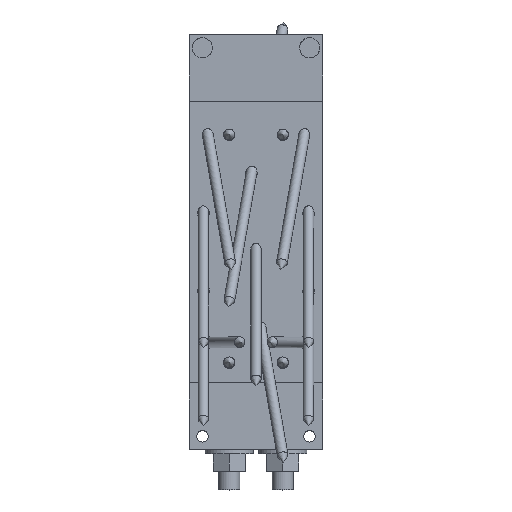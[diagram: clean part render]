
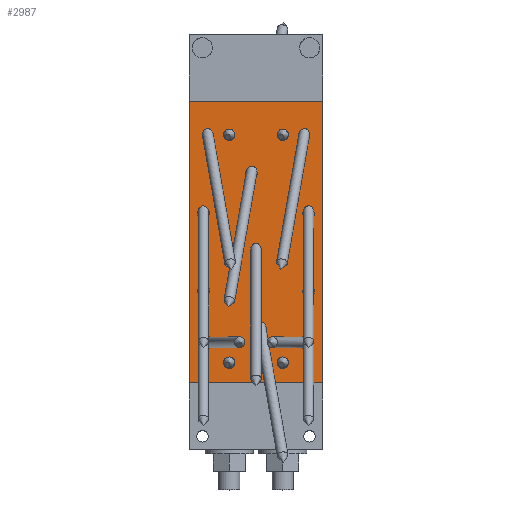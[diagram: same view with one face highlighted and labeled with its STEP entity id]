
A CAD part, top view. The second image highlights one B-rep face of the part: STEP entity #2987.
In plain terms, the highlighted planar face has unit normal (0, 0, 1) as drawn and (0, 0, -1) by its records, which use the part's own axes.
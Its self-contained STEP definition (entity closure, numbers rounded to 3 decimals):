
#295=CIRCLE('',#3474,4.25);
#296=CIRCLE('',#3475,4.25);
#297=CIRCLE('',#3476,4.25);
#298=CIRCLE('',#3477,4.25);
#388=ELLIPSE('',#3463,6.103,4.25);
#389=ELLIPSE('',#3464,6.103,4.25);
#390=ELLIPSE('',#3465,6.103,4.25);
#391=ELLIPSE('',#3466,6.103,4.25);
#392=ELLIPSE('',#3467,4.316,4.25);
#393=ELLIPSE('',#3468,4.316,4.25);
#394=ELLIPSE('',#3469,6.01,4.25);
#395=ELLIPSE('',#3470,6.01,4.25);
#396=ELLIPSE('',#3471,6.01,4.25);
#397=ELLIPSE('',#3472,6.01,4.25);
#398=ELLIPSE('',#3473,6.01,4.25);
#539=ORIENTED_EDGE('',*,*,#1238,.F.);
#540=ORIENTED_EDGE('',*,*,#1239,.F.);
#541=ORIENTED_EDGE('',*,*,#1240,.F.);
#542=ORIENTED_EDGE('',*,*,#1241,.F.);
#543=ORIENTED_EDGE('',*,*,#1242,.F.);
#544=ORIENTED_EDGE('',*,*,#1243,.F.);
#545=ORIENTED_EDGE('',*,*,#1244,.F.);
#546=ORIENTED_EDGE('',*,*,#1245,.T.);
#547=ORIENTED_EDGE('',*,*,#1246,.T.);
#548=ORIENTED_EDGE('',*,*,#1247,.F.);
#549=ORIENTED_EDGE('',*,*,#1248,.T.);
#550=ORIENTED_EDGE('',*,*,#1249,.F.);
#551=ORIENTED_EDGE('',*,*,#1250,.F.);
#552=ORIENTED_EDGE('',*,*,#1251,.F.);
#553=ORIENTED_EDGE('',*,*,#1252,.F.);
#554=ORIENTED_EDGE('',*,*,#1253,.F.);
#555=ORIENTED_EDGE('',*,*,#1254,.T.);
#556=ORIENTED_EDGE('',*,*,#1255,.T.);
#557=ORIENTED_EDGE('',*,*,#1236,.F.);
#1236=EDGE_CURVE('',#1577,#1578,#1857,.T.);
#1238=EDGE_CURVE('',#1579,#1579,#388,.T.);
#1239=EDGE_CURVE('',#1580,#1580,#389,.T.);
#1240=EDGE_CURVE('',#1581,#1581,#390,.T.);
#1241=EDGE_CURVE('',#1582,#1582,#391,.T.);
#1242=EDGE_CURVE('',#1583,#1583,#392,.T.);
#1243=EDGE_CURVE('',#1584,#1584,#393,.T.);
#1244=EDGE_CURVE('',#1585,#1585,#394,.T.);
#1245=EDGE_CURVE('',#1586,#1586,#395,.F.);
#1246=EDGE_CURVE('',#1587,#1587,#396,.F.);
#1247=EDGE_CURVE('',#1588,#1588,#397,.T.);
#1248=EDGE_CURVE('',#1589,#1589,#398,.F.);
#1249=EDGE_CURVE('',#1590,#1590,#295,.T.);
#1250=EDGE_CURVE('',#1591,#1591,#296,.T.);
#1251=EDGE_CURVE('',#1592,#1592,#297,.T.);
#1252=EDGE_CURVE('',#1593,#1593,#298,.T.);
#1253=EDGE_CURVE('',#1594,#1577,#1859,.T.);
#1254=EDGE_CURVE('',#1594,#1595,#1860,.T.);
#1255=EDGE_CURVE('',#1595,#1578,#1861,.T.);
#1577=VERTEX_POINT('',#4904);
#1578=VERTEX_POINT('',#4906);
#1579=VERTEX_POINT('',#4910);
#1580=VERTEX_POINT('',#4912);
#1581=VERTEX_POINT('',#4914);
#1582=VERTEX_POINT('',#4916);
#1583=VERTEX_POINT('',#4918);
#1584=VERTEX_POINT('',#4920);
#1585=VERTEX_POINT('',#4922);
#1586=VERTEX_POINT('',#4924);
#1587=VERTEX_POINT('',#4926);
#1588=VERTEX_POINT('',#4928);
#1589=VERTEX_POINT('',#4930);
#1590=VERTEX_POINT('',#4932);
#1591=VERTEX_POINT('',#4934);
#1592=VERTEX_POINT('',#4936);
#1593=VERTEX_POINT('',#4938);
#1594=VERTEX_POINT('',#4940);
#1595=VERTEX_POINT('',#4942);
#1857=LINE('',#4905,#2105);
#1859=LINE('',#4939,#2107);
#1860=LINE('',#4941,#2108);
#1861=LINE('',#4943,#2109);
#2105=VECTOR('',#3924,1000.);
#2107=VECTOR('',#3958,1000.);
#2108=VECTOR('',#3959,1000.);
#2109=VECTOR('',#3960,1000.);
#2292=EDGE_LOOP('',(#539));
#2293=EDGE_LOOP('',(#540));
#2294=EDGE_LOOP('',(#541));
#2295=EDGE_LOOP('',(#542));
#2296=EDGE_LOOP('',(#543));
#2297=EDGE_LOOP('',(#544));
#2298=EDGE_LOOP('',(#545));
#2299=EDGE_LOOP('',(#546));
#2300=EDGE_LOOP('',(#547));
#2301=EDGE_LOOP('',(#548));
#2302=EDGE_LOOP('',(#549));
#2303=EDGE_LOOP('',(#550));
#2304=EDGE_LOOP('',(#551));
#2305=EDGE_LOOP('',(#552));
#2306=EDGE_LOOP('',(#553));
#2307=EDGE_LOOP('',(#554,#555,#556,#557));
#2596=FACE_BOUND('',#2292,.T.);
#2597=FACE_BOUND('',#2293,.T.);
#2598=FACE_BOUND('',#2294,.T.);
#2599=FACE_BOUND('',#2295,.T.);
#2600=FACE_BOUND('',#2296,.T.);
#2601=FACE_BOUND('',#2297,.T.);
#2602=FACE_BOUND('',#2298,.T.);
#2603=FACE_BOUND('',#2299,.T.);
#2604=FACE_BOUND('',#2300,.T.);
#2605=FACE_BOUND('',#2301,.T.);
#2606=FACE_BOUND('',#2302,.T.);
#2607=FACE_BOUND('',#2303,.T.);
#2608=FACE_BOUND('',#2304,.T.);
#2609=FACE_BOUND('',#2305,.T.);
#2610=FACE_BOUND('',#2306,.T.);
#2611=FACE_BOUND('',#2307,.T.);
#2885=PLANE('',#3462);
#2987=ADVANCED_FACE('',(#2596,#2597,#2598,#2599,#2600,#2601,#2602,#2603,
#2604,#2605,#2606,#2607,#2608,#2609,#2610,#2611),#2885,.T.);
#3462=AXIS2_PLACEMENT_3D('',#4908,#3926,#3927);
#3463=AXIS2_PLACEMENT_3D('',#4909,#3928,#3929);
#3464=AXIS2_PLACEMENT_3D('',#4911,#3930,#3931);
#3465=AXIS2_PLACEMENT_3D('',#4913,#3932,#3933);
#3466=AXIS2_PLACEMENT_3D('',#4915,#3934,#3935);
#3467=AXIS2_PLACEMENT_3D('',#4917,#3936,#3937);
#3468=AXIS2_PLACEMENT_3D('',#4919,#3938,#3939);
#3469=AXIS2_PLACEMENT_3D('',#4921,#3940,#3941);
#3470=AXIS2_PLACEMENT_3D('',#4923,#3942,#3943);
#3471=AXIS2_PLACEMENT_3D('',#4925,#3944,#3945);
#3472=AXIS2_PLACEMENT_3D('',#4927,#3946,#3947);
#3473=AXIS2_PLACEMENT_3D('',#4929,#3948,#3949);
#3474=AXIS2_PLACEMENT_3D('',#4931,#3950,#3951);
#3475=AXIS2_PLACEMENT_3D('',#4933,#3952,#3953);
#3476=AXIS2_PLACEMENT_3D('',#4935,#3954,#3955);
#3477=AXIS2_PLACEMENT_3D('',#4937,#3956,#3957);
#3924=DIRECTION('',(0.,-1.,0.));
#3926=DIRECTION('',(0.,0.,-1.));
#3927=DIRECTION('',(-1.,0.,0.));
#3928=DIRECTION('',(0.,0.,-1.));
#3929=DIRECTION('',(-0.171,-0.985,0.));
#3930=DIRECTION('',(0.,0.,-1.));
#3931=DIRECTION('',(0.171,-0.985,0.));
#3932=DIRECTION('',(0.,0.,-1.));
#3933=DIRECTION('',(0.171,-0.985,0.));
#3934=DIRECTION('',(0.,0.,-1.));
#3935=DIRECTION('',(-0.171,-0.985,0.));
#3936=DIRECTION('',(0.,0.,-1.));
#3937=DIRECTION('',(-1.,0.,0.));
#3938=DIRECTION('',(0.,0.,-1.));
#3939=DIRECTION('',(1.,0.,0.));
#3940=DIRECTION('',(0.,0.,-1.));
#3941=DIRECTION('',(0.,1.,0.));
#3942=DIRECTION('',(0.,0.,-1.));
#3943=DIRECTION('',(0.,-1.,0.));
#3944=DIRECTION('',(0.,0.,-1.));
#3945=DIRECTION('',(0.,-1.,0.));
#3946=DIRECTION('',(0.,0.,-1.));
#3947=DIRECTION('',(0.,1.,0.));
#3948=DIRECTION('',(0.,0.,-1.));
#3949=DIRECTION('',(0.,-1.,0.));
#3950=DIRECTION('',(0.,0.,-1.));
#3951=DIRECTION('',(-1.,0.,0.));
#3952=DIRECTION('',(0.,0.,-1.));
#3953=DIRECTION('',(-1.,0.,0.));
#3954=DIRECTION('',(0.,0.,-1.));
#3955=DIRECTION('',(-1.,0.,0.));
#3956=DIRECTION('',(0.,0.,-1.));
#3957=DIRECTION('',(-1.,0.,0.));
#3958=DIRECTION('',(-1.,0.,0.));
#3959=DIRECTION('',(0.,-1.,0.));
#3960=DIRECTION('',(-1.,0.,0.));
#4904=CARTESIAN_POINT('',(0.,230.,0.));
#4905=CARTESIAN_POINT('',(0.,250.,0.));
#4906=CARTESIAN_POINT('',(0.,20.,0.));
#4908=CARTESIAN_POINT('',(0.,250.,0.));
#4909=CARTESIAN_POINT('',(14.277,46.309,0.));
#4910=CARTESIAN_POINT('',(13.232,40.296,0.));
#4911=CARTESIAN_POINT('',(46.473,74.31,0.));
#4912=CARTESIAN_POINT('',(47.518,68.297,0.));
#4913=CARTESIAN_POINT('',(85.723,46.309,0.));
#4914=CARTESIAN_POINT('',(86.768,40.296,0.));
#4915=CARTESIAN_POINT('',(53.527,190.311,0.));
#4916=CARTESIAN_POINT('',(52.482,184.298,0.));
#4917=CARTESIAN_POINT('',(14.277,200.,0.));
#4918=CARTESIAN_POINT('',(9.961,200.,0.));
#4919=CARTESIAN_POINT('',(85.723,200.,0.));
#4920=CARTESIAN_POINT('',(90.039,200.,0.));
#4921=CARTESIAN_POINT('',(10.75,104.,0.));
#4922=CARTESIAN_POINT('',(10.75,110.01,0.));
#4923=CARTESIAN_POINT('',(89.25,104.,0.));
#4924=CARTESIAN_POINT('',(89.25,97.99,0.));
#4925=CARTESIAN_POINT('',(50.,132.,0.));
#4926=CARTESIAN_POINT('',(50.,125.99,0.));
#4927=CARTESIAN_POINT('',(10.75,162.,0.));
#4928=CARTESIAN_POINT('',(10.75,168.01,0.));
#4929=CARTESIAN_POINT('',(89.25,162.,0.));
#4930=CARTESIAN_POINT('',(89.25,155.99,0.));
#4931=CARTESIAN_POINT('',(30.,45.,0.));
#4932=CARTESIAN_POINT('',(25.75,45.,0.));
#4933=CARTESIAN_POINT('',(70.,45.,0.));
#4934=CARTESIAN_POINT('',(65.75,45.,0.));
#4935=CARTESIAN_POINT('',(70.,215.,0.));
#4936=CARTESIAN_POINT('',(65.75,215.,0.));
#4937=CARTESIAN_POINT('',(30.,215.,0.));
#4938=CARTESIAN_POINT('',(25.75,215.,0.));
#4939=CARTESIAN_POINT('',(100.,230.,0.));
#4940=CARTESIAN_POINT('',(100.,230.,0.));
#4941=CARTESIAN_POINT('',(100.,250.,0.));
#4942=CARTESIAN_POINT('',(100.,20.,0.));
#4943=CARTESIAN_POINT('',(357.205,20.,0.));
